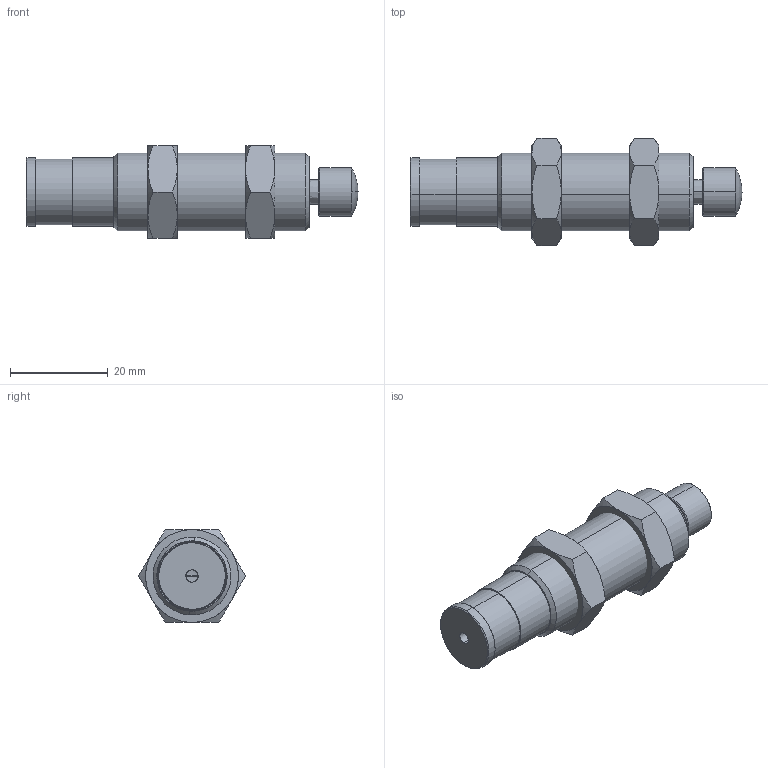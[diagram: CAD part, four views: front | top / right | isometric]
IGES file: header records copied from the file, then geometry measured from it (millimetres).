
Start section: SolidWorks IGES file using analytic representation for surfaces
Global section: file name: D:\IGS跡宒\AC1610-SH.IGS,1; native system: 5HSolidWorks 2013; preprocessor: SolidWorks 2013; author: Administrator; date: 160406.151958; units: inch
Bounding box: 68.04 x 21.94 x 19 mm (x, y, z)
Surface area: 5532.4 mm2 (no closed solid volume)
Topology: 0 solids, 0 shells, 74 faces, 1284 edges, 1283 vertices
Faces by surface type: revolution 52, bspline 22
